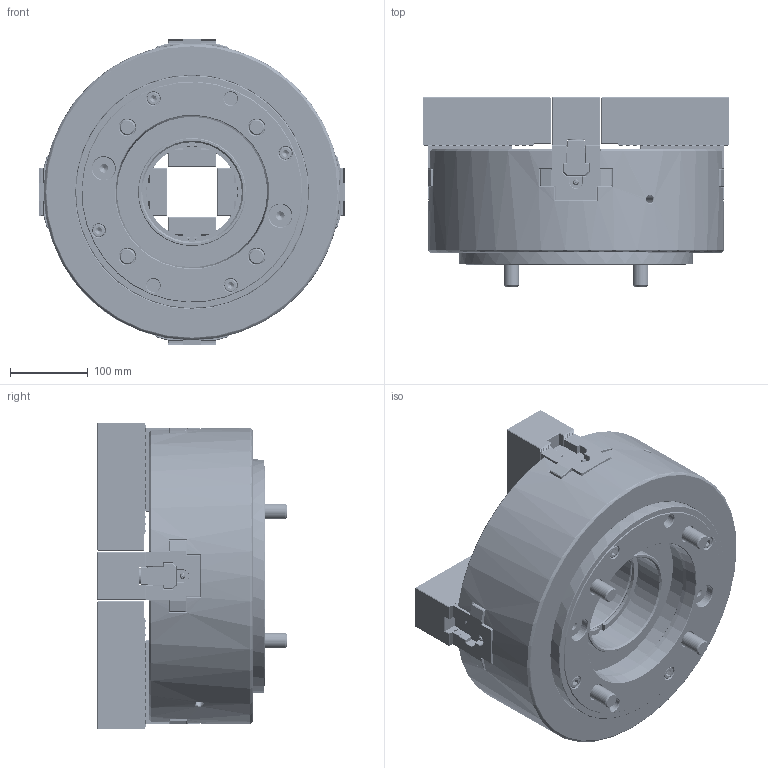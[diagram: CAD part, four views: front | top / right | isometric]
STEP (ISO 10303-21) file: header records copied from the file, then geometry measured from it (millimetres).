
FILE_DESCRIPTION(/* description */ (''),/* implementation_level */ '2;1');
FILE_NAME(/* name */ '\\Itserver\個人資料夾\柯玫如\8.網頁3D討論\1.中空油壓系列\1-1中空油壓夾頭\3.OPF系列\OPF-215\OPF-215-A11.stp',/* time_stamp */ '2024-08-27T09:32:32+08:00',/* author */ ('034'),/* organization */ (''),/* preprocessor_version */ 'ST-DEVELOPER v16.13',/* originating_system */ 'Autodesk Inventor 2018',/* authorisation */ '');
FILE_SCHEMA (('AUTOMOTIVE_DESIGN { 1 0 10303 214 3 1 1 }'));
Products named in the file (1): OPF-215-A11
Bounding box: 394.33 x 243.29 x 394.33 mm (x, y, z)
Volume: 15739408 mm3; surface area: 1057058.4 mm2
Topology: 1 solids, 34 shells, 9962 faces, 33250 edges, 21186 vertices
Faces by surface type: plane 6057, cylinder 2933, bspline 448, cone 381, torus 107, sphere 36
Full cylindrical faces by diameter (mm): 3 x40, 3.4 x6, 4 x22, 4.5 x6, 4.8 x8, 5.1 x4, 5.2 x4, 6 x8, 7 x4, 7.53 x6, 8.6 x2, 10 x8, 10.3 x6, 11 x8, 16 x4, 17 x6, 20 x12, 21 x16, 29.4 x2, 30 x14, 32 x12, 60 x2, 117.5 x1, 121 x1, 123.4 x1, 123.6 x1, 128 x1, 131 x1, 136.635 x1, 139 x1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
Entity records: 363601 total; most frequent: CARTESIAN_POINT 74541, ORIENTED_EDGE 64910, DIRECTION 56658, EDGE_CURVE 32455, LINE 24386, VECTOR 24386, VERTEX_POINT 20883, AXIS2_PLACEMENT_3D 16136
